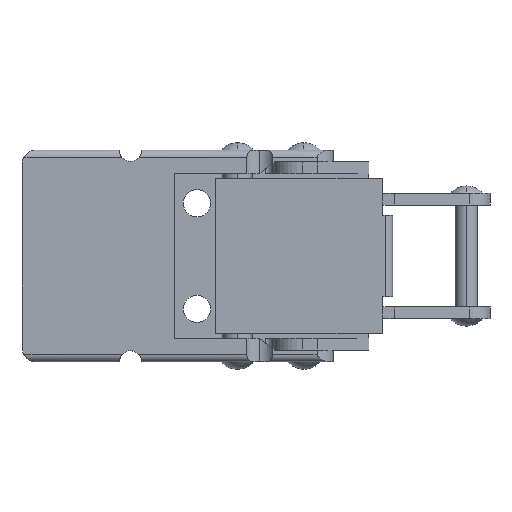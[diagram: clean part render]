
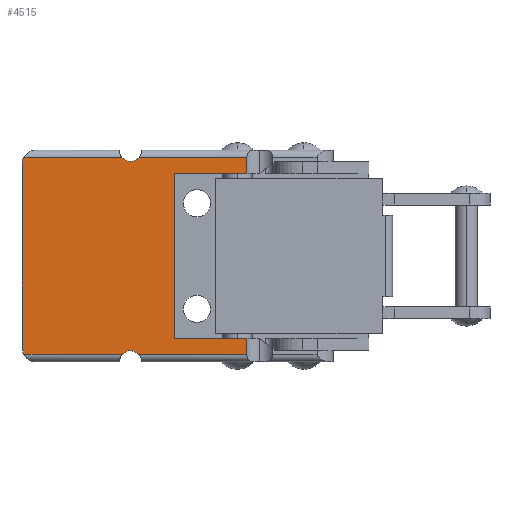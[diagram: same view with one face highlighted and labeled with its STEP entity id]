
A CAD part, top view. The second image highlights one B-rep face of the part: STEP entity #4515.
In plain terms, the highlighted planar face has unit normal (0, 0, 1).
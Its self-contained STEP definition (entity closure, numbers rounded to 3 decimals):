
#3489=CARTESIAN_POINT('',(-6.4,-12.85,4.25));
#3490=VERTEX_POINT('',#3489);
#3499=CARTESIAN_POINT('',(-7.518,-13.35,4.25));
#3500=VERTEX_POINT('',#3499);
#3501=CARTESIAN_POINT('',(-6.4,-14.35,4.25));
#3502=DIRECTION('',(0.0,0.0,1.0));
#3503=DIRECTION('',(0.0,-1.0,0.0));
#3504=AXIS2_PLACEMENT_3D('',#3501,#3502,#3503);
#3505=CIRCLE('',#3504,1.5);
#3506=EDGE_CURVE('',#3490,#3500,#3505,.T.);
#3557=CARTESIAN_POINT('',(-6.4,12.82,4.25));
#3558=VERTEX_POINT('',#3557);
#3582=CARTESIAN_POINT('',(-7.558,13.35,4.25));
#3583=VERTEX_POINT('',#3582);
#3605=CARTESIAN_POINT('',(-6.4,14.35,4.25));
#3606=DIRECTION('',(0.0,0.0,1.0));
#3607=DIRECTION('',(0.0,-1.0,0.0));
#3608=AXIS2_PLACEMENT_3D('',#3605,#3606,#3607);
#3609=CIRCLE('',#3608,1.53);
#3610=EDGE_CURVE('',#3583,#3558,#3609,.T.);
#4083=CARTESIAN_POINT('',(9.368,13.35,4.25));
#4084=VERTEX_POINT('',#4083);
#4131=CARTESIAN_POINT('',(9.368,11.15,4.25));
#4132=VERTEX_POINT('',#4131);
#4133=CARTESIAN_POINT('',(9.368,11.15,4.25));
#4134=DIRECTION('',(0.0,1.0,0.0));
#4135=VECTOR('',#4134,2.2);
#4136=LINE('',#4133,#4135);
#4137=EDGE_CURVE('',#4132,#4084,#4136,.T.);
#4155=CARTESIAN_POINT('',(9.368,-11.15,4.25));
#4156=VERTEX_POINT('',#4155);
#4164=CARTESIAN_POINT('',(9.368,-13.35,4.25));
#4165=VERTEX_POINT('',#4164);
#4166=CARTESIAN_POINT('',(9.368,-13.35,4.25));
#4167=DIRECTION('',(0.0,1.0,0.0));
#4168=VECTOR('',#4167,2.2);
#4169=LINE('',#4166,#4168);
#4170=EDGE_CURVE('',#4165,#4156,#4169,.T.);
#4227=CARTESIAN_POINT('',(-5.282,-13.35,4.25));
#4228=VERTEX_POINT('',#4227);
#4229=CARTESIAN_POINT('',(9.368,-13.35,4.25));
#4230=DIRECTION('',(-1.0,0.0,0.0));
#4231=VECTOR('',#4230,14.65);
#4232=LINE('',#4229,#4231);
#4233=EDGE_CURVE('',#4165,#4228,#4232,.T.);
#4368=CARTESIAN_POINT('',(-0.5,11.15,4.25));
#4369=VERTEX_POINT('',#4368);
#4370=CARTESIAN_POINT('',(9.368,11.15,4.25));
#4371=DIRECTION('',(-1.0,0.0,0.0));
#4372=VECTOR('',#4371,9.868);
#4373=LINE('',#4370,#4372);
#4374=EDGE_CURVE('',#4132,#4369,#4373,.T.);
#4426=CARTESIAN_POINT('',(29.1,13.35,4.25));
#4427=DIRECTION('',(0.0,0.0,1.0));
#4428=DIRECTION('',(0.0,1.0,0.0));
#4429=AXIS2_PLACEMENT_3D('',#4426,#4427,#4428);
#4430=PLANE('',#4429);
#4431=ORIENTED_EDGE('',*,*,#4170,.T.);
#4432=CARTESIAN_POINT('',(-0.5,-11.15,4.25));
#4433=VERTEX_POINT('',#4432);
#4434=CARTESIAN_POINT('',(-0.5,-11.15,4.25));
#4435=DIRECTION('',(1.0,0.0,0.0));
#4436=VECTOR('',#4435,9.868);
#4437=LINE('',#4434,#4436);
#4438=EDGE_CURVE('',#4433,#4156,#4437,.T.);
#4439=ORIENTED_EDGE('',*,*,#4438,.F.);
#4440=CARTESIAN_POINT('',(-0.5,11.15,4.25));
#4441=DIRECTION('',(0.0,-1.0,0.0));
#4442=VECTOR('',#4441,22.3);
#4443=LINE('',#4440,#4442);
#4444=EDGE_CURVE('',#4369,#4433,#4443,.T.);
#4445=ORIENTED_EDGE('',*,*,#4444,.F.);
#4446=ORIENTED_EDGE('',*,*,#4374,.F.);
#4447=ORIENTED_EDGE('',*,*,#4137,.T.);
#4448=CARTESIAN_POINT('',(-5.242,13.35,4.25));
#4449=VERTEX_POINT('',#4448);
#4450=CARTESIAN_POINT('',(9.368,13.35,4.25));
#4451=DIRECTION('',(-1.0,0.0,0.0));
#4452=VECTOR('',#4451,14.61);
#4453=LINE('',#4450,#4452);
#4454=EDGE_CURVE('',#4084,#4449,#4453,.T.);
#4455=ORIENTED_EDGE('',*,*,#4454,.T.);
#4456=CARTESIAN_POINT('',(-6.4,14.35,4.25));
#4457=DIRECTION('',(0.0,0.0,1.0));
#4458=DIRECTION('',(0.0,-1.0,0.0));
#4459=AXIS2_PLACEMENT_3D('',#4456,#4457,#4458);
#4460=CIRCLE('',#4459,1.53);
#4461=EDGE_CURVE('',#3558,#4449,#4460,.T.);
#4462=ORIENTED_EDGE('',*,*,#4461,.F.);
#4463=ORIENTED_EDGE('',*,*,#3610,.F.);
#4464=CARTESIAN_POINT('',(-20.832,13.35,4.25));
#4465=VERTEX_POINT('',#4464);
#4466=CARTESIAN_POINT('',(-7.558,13.35,4.25));
#4467=DIRECTION('',(-1.0,0.0,0.0));
#4468=VECTOR('',#4467,13.274);
#4469=LINE('',#4466,#4468);
#4470=EDGE_CURVE('',#3583,#4465,#4469,.T.);
#4471=ORIENTED_EDGE('',*,*,#4470,.T.);
#4472=CARTESIAN_POINT('',(-21.1,12.35,4.25));
#4473=VERTEX_POINT('',#4472);
#4474=CARTESIAN_POINT('',(-19.1,12.35,4.25));
#4475=DIRECTION('',(0.0,0.0,-1.0));
#4476=DIRECTION('',(0.0,-1.0,0.0));
#4477=AXIS2_PLACEMENT_3D('',#4474,#4475,#4476);
#4478=CIRCLE('',#4477,2.0);
#4479=EDGE_CURVE('',#4473,#4465,#4478,.T.);
#4480=ORIENTED_EDGE('',*,*,#4479,.F.);
#4481=CARTESIAN_POINT('',(-21.1,-12.35,4.25));
#4482=VERTEX_POINT('',#4481);
#4483=CARTESIAN_POINT('',(-21.1,12.35,4.25));
#4484=DIRECTION('',(0.0,-1.0,0.0));
#4485=VECTOR('',#4484,24.7);
#4486=LINE('',#4483,#4485);
#4487=EDGE_CURVE('',#4473,#4482,#4486,.T.);
#4488=ORIENTED_EDGE('',*,*,#4487,.T.);
#4489=CARTESIAN_POINT('',(-20.832,-13.35,4.25));
#4490=VERTEX_POINT('',#4489);
#4491=CARTESIAN_POINT('',(-19.1,-12.35,4.25));
#4492=DIRECTION('',(0.0,0.0,-1.0));
#4493=DIRECTION('',(0.0,-1.0,0.0));
#4494=AXIS2_PLACEMENT_3D('',#4491,#4492,#4493);
#4495=CIRCLE('',#4494,2.0);
#4496=EDGE_CURVE('',#4490,#4482,#4495,.T.);
#4497=ORIENTED_EDGE('',*,*,#4496,.F.);
#4498=CARTESIAN_POINT('',(-7.518,-13.35,4.25));
#4499=DIRECTION('',(-1.0,0.0,0.0));
#4500=VECTOR('',#4499,13.314);
#4501=LINE('',#4498,#4500);
#4502=EDGE_CURVE('',#3500,#4490,#4501,.T.);
#4503=ORIENTED_EDGE('',*,*,#4502,.F.);
#4504=ORIENTED_EDGE('',*,*,#3506,.F.);
#4505=CARTESIAN_POINT('',(-6.4,-14.35,4.25));
#4506=DIRECTION('',(0.0,0.0,1.0));
#4507=DIRECTION('',(0.0,-1.0,0.0));
#4508=AXIS2_PLACEMENT_3D('',#4505,#4506,#4507);
#4509=CIRCLE('',#4508,1.5);
#4510=EDGE_CURVE('',#4228,#3490,#4509,.T.);
#4511=ORIENTED_EDGE('',*,*,#4510,.F.);
#4512=ORIENTED_EDGE('',*,*,#4233,.F.);
#4513=EDGE_LOOP('',(#4431,#4439,#4445,#4446,#4447,#4455,#4462,#4463,#4471,#4480,#4488,#4497,#4503,#4504,#4511,#4512));
#4514=FACE_OUTER_BOUND('',#4513,.T.);
#4515=ADVANCED_FACE('',(#4514),#4430,.T.);
